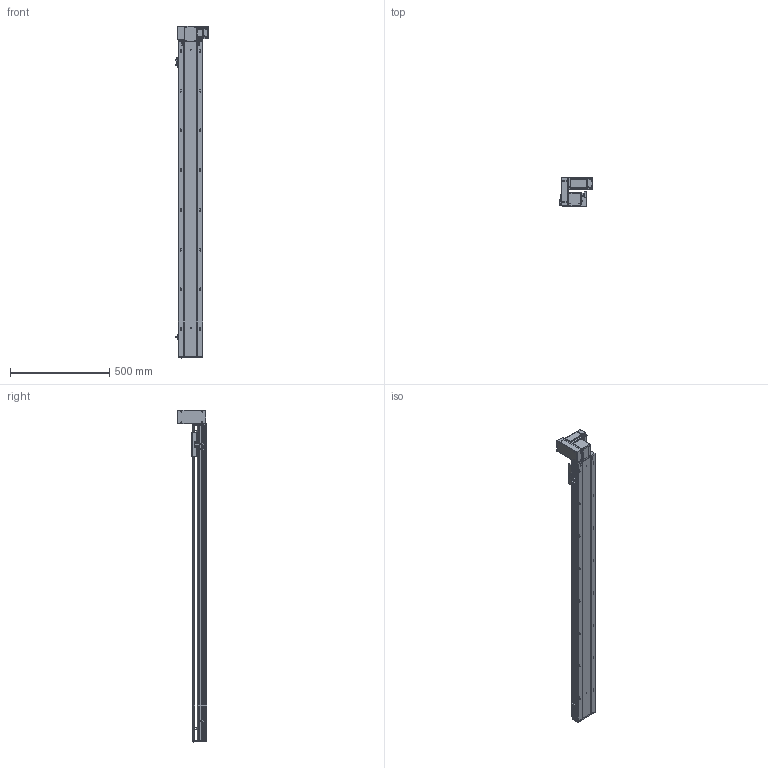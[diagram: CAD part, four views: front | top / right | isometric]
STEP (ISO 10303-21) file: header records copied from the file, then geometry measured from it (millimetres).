
FILE_DESCRIPTION (( 'STEP AP203' ), '1' );
FILE_NAME ('RY120-T-300-UL.SLDASM_1350.step', '2021-03-01T05:36:47', ( '盈信电脑' ), ( '东莞市道滘镇水果街19号' ), 'SwSTEP 2.0', 'SolidWorks 2012', '' );
FILE_SCHEMA (( 'CONFIG_CONTROL_DESIGN' ));
Length unit declared in the file: millimetre
Products named in the file (18): RY120-T-300-UL.SLDASM_1350; RY120-T蹟翐M4; RY120-T翋肮祭謫裔啣; 滅袉蝶18-10; RY120-T萇儂欶; RY120-T主同步轮轴承压盖; 侂狟400W侜督萇儂; 15; RY120-T肮祭湍揤踡輸2; RY120-T萇儂假蚾啣; RY120-T翋肮祭盓傅釱; RY120-T肮祭湍揤踡輸1; RY120綴裔啣; RY120外置感应片(140共用）; 覜茼ん672; RY120肮祭湍臏賑輸; RY120-T-300-UL倰第奻裔啣_1350; RY120-T-300-UL倰第菁釱_1350
Assembly tree (23 placements, depth 3):
  RY120-T-300-UL.SLDASM_1350
    RY120-T-300-UL倰第菁釱_1350
    RY120-T-300-UL倰第奻裔啣_1350
    RY120肮祭湍臏賑輸
    RY120綴裔啣
    覜茼ん672  x3
    RY120外置感应片(140共用）
    RY120-T肮祭湍揤踡輸1
    RY120-T肮祭湍揤踡輸2
    RY120-T翋肮祭盓傅釱
    RY120-T萇儂假蚾啣
    侂狟400W侜督萇儂
      15
    RY120-T主同步轮轴承压盖
    滅袉蝶18-10  x2
    RY120-T萇儂欶
    RY120-T蹟翐M4  x4
    RY120-T翋肮祭謫裔啣
Bounding box: 164.2 x 146 x 1671 mm (x, y, z)
Volume: 4384286.2 mm3; surface area: 1654043.8 mm2
Topology: 23 solids, 23 shells, 2902 faces, 7912 edges, 5058 vertices
Faces by surface type: plane 1422, cylinder 1116, cone 275, bspline 89
Entity records: 92516 total; most frequent: CARTESIAN_POINT 23590, ORIENTED_EDGE 14200, DIRECTION 13458, EDGE_CURVE 7100, VERTEX_POINT 4645, AXIS2_PLACEMENT_3D 4529, VECTOR 4400, LINE 4400
